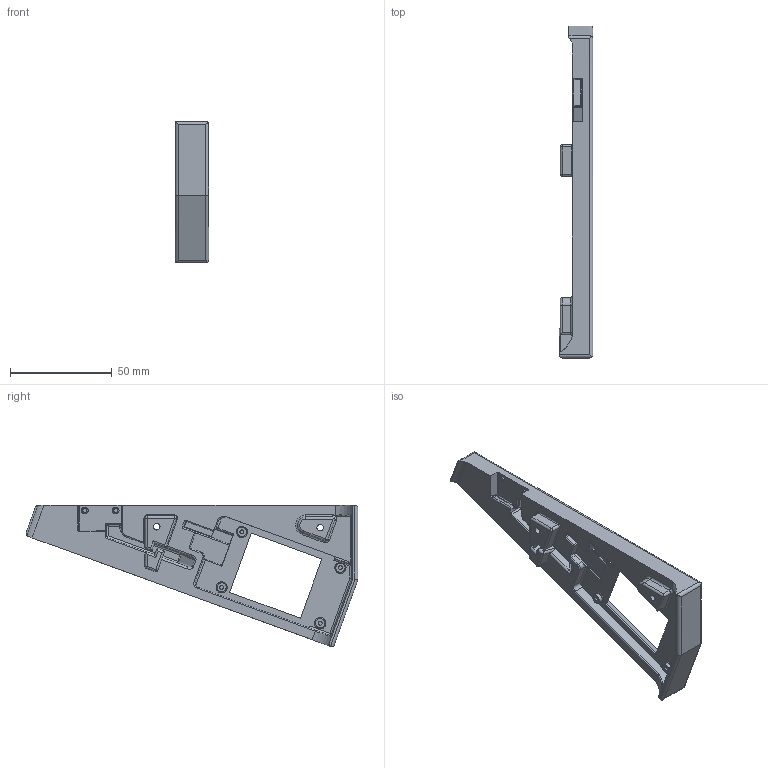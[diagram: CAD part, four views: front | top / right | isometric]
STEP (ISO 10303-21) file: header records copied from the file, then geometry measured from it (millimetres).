
FILE_DESCRIPTION(/* description */ (''),/* implementation_level */ '2;1');
FILE_NAME(/* name */ 'PCB_cover_waveshare_1.8inchLCD_UsbC.step',/* time_stamp */ '2024-03-16T17:25:57-04:00',/* author */ (''),/* organization */ (''),/* preprocessor_version */ 'ST-DEVELOPER v20',/* originating_system */ 'Autodesk Translation Framework v12.20.1.177',/* authorisation */ '');
FILE_SCHEMA (('AUTOMOTIVE_DESIGN { 1 0 10303 214 3 1 1 }'));
Length unit declared in the file: millimetre
Products named in the file (1): PCB_cover_waveshare_7735_UsbC
Bounding box: 16.5 x 162.98 x 69.36 mm (x, y, z)
Volume: 48649.6 mm3; surface area: 20741.5 mm2
Topology: 1 solids, 1 shells, 294 faces, 777 edges, 475 vertices
Faces by surface type: cylinder 147, plane 94, torus 29, bspline 13, sphere 7, cone 4
Full cylindrical faces by diameter (mm): 1.9 x4, 2.04 x2, 3.16 x1, 3.2 x1, 4.5 x4, 7.6 x2, 17.2 x1, 18.8 x1
Entity records: 14365 total; most frequent: CARTESIAN_POINT 7090, DIRECTION 1578, ORIENTED_EDGE 1506, EDGE_CURVE 753, AXIS2_PLACEMENT_3D 606, VERTEX_POINT 471, LINE 366, VECTOR 366
